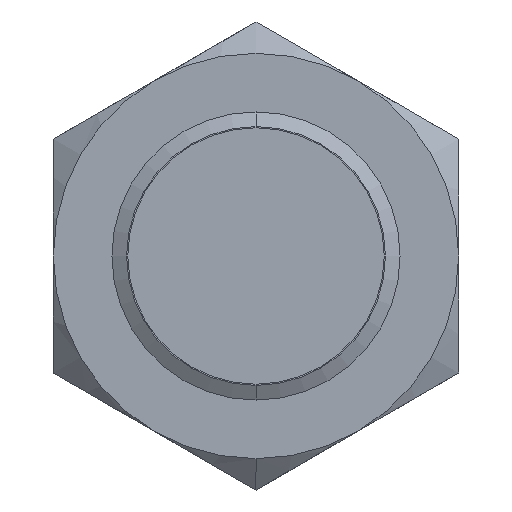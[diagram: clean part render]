
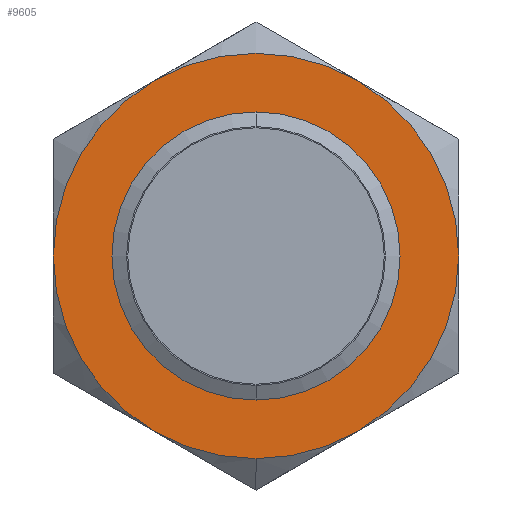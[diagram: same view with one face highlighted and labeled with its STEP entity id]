
A CAD part, left-side view. The second image highlights one B-rep face of the part: STEP entity #9605.
In plain terms, the highlighted planar face has unit normal (-1, 0, 0).
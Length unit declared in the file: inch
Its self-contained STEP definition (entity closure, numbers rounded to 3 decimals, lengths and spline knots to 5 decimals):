
#293 = ORIENTED_EDGE ( 'NONE', *, *, #11986, .F. ) ;
#355 = CARTESIAN_POINT ( 'NONE',  ( 0.81804, 0.332, 0. ) ) ;
#614 = CARTESIAN_POINT ( 'NONE',  ( 0.81804, -0.332, 0. ) ) ;
#844 = ORIENTED_EDGE ( 'NONE', *, *, #7524, .F. ) ;
#1401 = ORIENTED_EDGE ( 'NONE', *, *, #4737, .F. ) ;
#1846 = CIRCLE ( 'NONE', #1847, 0.332 ) ;
#1847 = AXIS2_PLACEMENT_3D ( 'NONE', #1848, #1849, #1850 ) ;
#1848 = CARTESIAN_POINT ( 'NONE',  ( 0.81804, 0., 0. ) ) ;
#1849 = DIRECTION ( 'NONE',  ( 1., 0., 0. ) ) ;
#1850 = DIRECTION ( 'NONE',  ( 0., 1., 0. ) ) ;
#1976 = ORIENTED_EDGE ( 'NONE', *, *, #9336, .F. ) ;
#2183 = CARTESIAN_POINT ( 'NONE',  ( 0.81804, 0., 0.231 ) ) ;
#2393 = CARTESIAN_POINT ( 'NONE',  ( 0.81804, 0., -0.231 ) ) ;
#2468 = EDGE_CURVE ( 'NONE', #5695, #8383, #11444, .T. ) ;
#2535 = EDGE_LOOP ( 'NONE', ( #1976, #1401, #844, #293, #12186, #11631, #11059 ) ) ;
#2699 = CARTESIAN_POINT ( 'NONE',  ( 0.81804, 0.166, 0.28752 ) ) ;
#2792 = ORIENTED_EDGE ( 'NONE', *, *, #9900, .F. ) ;
#3708 = CIRCLE ( 'NONE', #3709, 0.332 ) ;
#3709 = AXIS2_PLACEMENT_3D ( 'NONE', #3710, #3711, #3712 ) ;
#3710 = CARTESIAN_POINT ( 'NONE',  ( 0.81804, 0., 0. ) ) ;
#3711 = DIRECTION ( 'NONE',  ( 1., 0., 0. ) ) ;
#3712 = DIRECTION ( 'NONE',  ( 0., 0., -1. ) ) ;
#3772 = CIRCLE ( 'NONE', #3773, 0.231 ) ;
#3773 = AXIS2_PLACEMENT_3D ( 'NONE', #3774, #3775, #3776 ) ;
#3774 = CARTESIAN_POINT ( 'NONE',  ( 0.81804, 0., 0. ) ) ;
#3775 = DIRECTION ( 'NONE',  ( -1., 0., 0. ) ) ;
#3776 = DIRECTION ( 'NONE',  ( 0., 0., -1. ) ) ;
#4055 = CIRCLE ( 'NONE', #4056, 0.332 ) ;
#4056 = AXIS2_PLACEMENT_3D ( 'NONE', #4057, #4058, #4059 ) ;
#4057 = CARTESIAN_POINT ( 'NONE',  ( 0.81804, 0., 0. ) ) ;
#4058 = DIRECTION ( 'NONE',  ( 1., 0., 0. ) ) ;
#4059 = DIRECTION ( 'NONE',  ( 0., 1., 0. ) ) ;
#4376 = CARTESIAN_POINT ( 'NONE',  ( 0.81804, 0.166, -0.28752 ) ) ;
#4737 = EDGE_CURVE ( 'NONE', #9981, #9300, #12282, .T. ) ;
#4849 = CIRCLE ( 'NONE', #4850, 0.332 ) ;
#4850 = AXIS2_PLACEMENT_3D ( 'NONE', #4851, #4852, #4853 ) ;
#4851 = CARTESIAN_POINT ( 'NONE',  ( 0.81804, 0., 0. ) ) ;
#4852 = DIRECTION ( 'NONE',  ( 1., 0., 0. ) ) ;
#4853 = DIRECTION ( 'NONE',  ( 0., 0., -1. ) ) ;
#5689 = CARTESIAN_POINT ( 'NONE',  ( 0.81804, 0., -0.332 ) ) ;
#5695 = VERTEX_POINT ( 'NONE', #355 ) ;
#5706 = CARTESIAN_POINT ( 'NONE',  ( 0.81804, -0.166, 0.28752 ) ) ;
#5762 = CARTESIAN_POINT ( 'NONE',  ( 0.81804, -0.166, -0.28752 ) ) ;
#5809 = CIRCLE ( 'NONE', #5810, 0.332 ) ;
#5810 = AXIS2_PLACEMENT_3D ( 'NONE', #5811, #5812, #5813 ) ;
#5811 = CARTESIAN_POINT ( 'NONE',  ( 0.81804, 0., 0. ) ) ;
#5812 = DIRECTION ( 'NONE',  ( 1., 0., 0. ) ) ;
#5813 = DIRECTION ( 'NONE',  ( 0., 0., -1. ) ) ;
#6287 = FACE_BOUND ( 'NONE', #9537, .T. ) ;
#6288 = FACE_OUTER_BOUND ( 'NONE', #2535, .T. ) ;
#6289 = PLANE ( 'NONE',  #6290 ) ;
#6290 = AXIS2_PLACEMENT_3D ( 'NONE', #6293, #6294, #6295 ) ;
#6293 = CARTESIAN_POINT ( 'NONE',  ( 0.81804, 0., 0. ) ) ;
#6294 = DIRECTION ( 'NONE',  ( 1., 0., 0. ) ) ;
#6295 = DIRECTION ( 'NONE',  ( 0., 0., -1. ) ) ;
#6998 = CIRCLE ( 'NONE', #6999, 0.231 ) ;
#6999 = AXIS2_PLACEMENT_3D ( 'NONE', #7000, #7001, #7002 ) ;
#7000 = CARTESIAN_POINT ( 'NONE',  ( 0.81804, 0., 0. ) ) ;
#7001 = DIRECTION ( 'NONE',  ( -1., 0., 0. ) ) ;
#7002 = DIRECTION ( 'NONE',  ( 0., 0., -1. ) ) ;
#7524 = EDGE_CURVE ( 'NONE', #9254, #9981, #1846, .T. ) ;
#8027 = VERTEX_POINT ( 'NONE', #2183 ) ;
#8267 = VERTEX_POINT ( 'NONE', #2393 ) ;
#8383 = VERTEX_POINT ( 'NONE', #2699 ) ;
#8549 = EDGE_CURVE ( 'NONE', #8733, #5695, #3708, .T. ) ;
#8733 = VERTEX_POINT ( 'NONE', #4376 ) ;
#8969 = EDGE_CURVE ( 'NONE', #9241, #8733, #4849, .T. ) ;
#9241 = VERTEX_POINT ( 'NONE', #5689 ) ;
#9254 = VERTEX_POINT ( 'NONE', #5706 ) ;
#9300 = VERTEX_POINT ( 'NONE', #5762 ) ;
#9336 = EDGE_CURVE ( 'NONE', #9300, #9241, #5809, .T. ) ;
#9470 = ORIENTED_EDGE ( 'NONE', *, *, #11574, .F. ) ;
#9537 = EDGE_LOOP ( 'NONE', ( #9470, #2792 ) ) ;
#9605 = ADVANCED_FACE ( 'NONE', ( #6287, #6288 ), #6289, .F. ) ;
#9900 = EDGE_CURVE ( 'NONE', #8027, #8267, #6998, .T. ) ;
#9981 = VERTEX_POINT ( 'NONE', #614 ) ;
#11059 = ORIENTED_EDGE ( 'NONE', *, *, #8969, .F. ) ;
#11444 = CIRCLE ( 'NONE', #11445, 0.332 ) ;
#11445 = AXIS2_PLACEMENT_3D ( 'NONE', #11446, #11447, #11448 ) ;
#11446 = CARTESIAN_POINT ( 'NONE',  ( 0.81804, 0., 0. ) ) ;
#11447 = DIRECTION ( 'NONE',  ( 1., 0., 0. ) ) ;
#11448 = DIRECTION ( 'NONE',  ( 0., 0., -1. ) ) ;
#11574 = EDGE_CURVE ( 'NONE', #8267, #8027, #3772, .T. ) ;
#11631 = ORIENTED_EDGE ( 'NONE', *, *, #8549, .F. ) ;
#11986 = EDGE_CURVE ( 'NONE', #8383, #9254, #4055, .T. ) ;
#12186 = ORIENTED_EDGE ( 'NONE', *, *, #2468, .F. ) ;
#12282 = CIRCLE ( 'NONE', #12283, 0.332 ) ;
#12283 = AXIS2_PLACEMENT_3D ( 'NONE', #12284, #12285, #12286 ) ;
#12284 = CARTESIAN_POINT ( 'NONE',  ( 0.81804, 0., 0. ) ) ;
#12285 = DIRECTION ( 'NONE',  ( 1., 0., 0. ) ) ;
#12286 = DIRECTION ( 'NONE',  ( 0., 0., -1. ) ) ;
